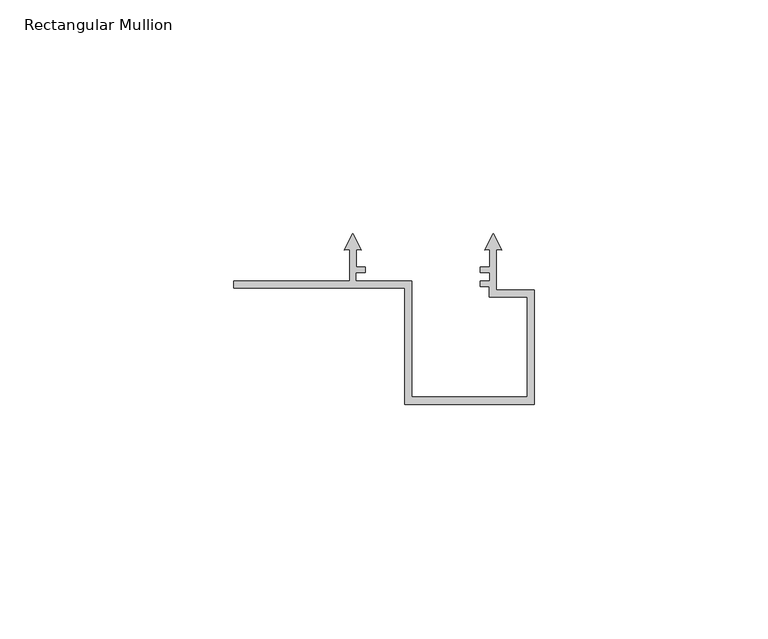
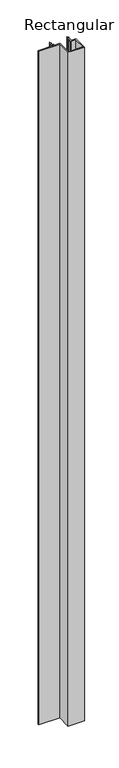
"""IFC4 building model written with IfcOpenShell, lengths in millimetres: member geometry, Rectangular Mullion : Renson_Linarte_LA-B25-01."""

from ifc_helpers import new_model, si_unit, frame, origin, place, context, project, spatial, polyline, outline, extrude, source, transform, mapped, element, save


def rectangular_mullion_c315bab6(model_context):
    return source(origin(), model_context, "Body", "SweptSolid", [
        extrude(outline(polyline([(36.6500002, -61.6), (36.6500002, -36.7004291), (0.0, -36.7004291), (0.0, -35.2056679), (24.8, -35.2056679), (24.8, -28.5038207), (23.6842647, -28.6014348), (25.5000014, -25.0378474), (27.315738, -28.6014348), (26.2000002, -28.5038204), (26.2000002, -32.1999997), (28.1922643, -32.1999997), (28.1922643, -33.4008281), (26.1000012, -33.4008281), (26.1000012, -35.1999997), (38.1500002, -35.1999997), (38.1500002, -60.0999997), (62.8500002, -60.0999997), (62.8500002, -38.5997951), (54.6997126, -38.5997951), (54.6997126, -36.4015214), (52.8211027, -36.4015214), (52.8211027, -35.1999954), (54.8, -35.1999954), (54.8, -33.4004386), (52.8216175, -33.4004386), (52.8216175, -32.198351), (54.8091807, -32.198351), (54.8091807, -28.5038206), (53.6934442, -28.6014348), (55.5091808, -25.0378474), (57.3249174, -28.6014348), (56.2091809, -28.5038205), (56.2091809, -37.0995654), (64.3500002, -37.0995654), (64.3500002, -61.6), (36.6500002, -61.6)])), frame((0.0, 0.0, -1225.5020157), z_axis=(0.0, 0.0, 1.0), x_axis=(1.0, 0.0, 0.0)), (0.0, 0.0, 1.0), 1225.5020157),
    ])


if __name__ == "__main__":
    model = new_model("IFC4")
    model_context = context("Model", 3, world=origin())
    ifc_project = project(units=[si_unit("LENGTHUNIT", "METRE", prefix="MILLI")], contexts=[model_context])
    site = spatial("IfcSite", under=ifc_project)
    building = spatial("IfcBuilding", under=site)
    placement = place(None, origin())
    rectangular_mullion_shape = rectangular_mullion_c315bab6(model_context)
    element("IfcMember", 1, ObjectType="Rectangular Mullion : Renson_Linarte_LA-B25-01", at=placement, inside=building, context=model_context, shape_type="MappedRepresentation", body=[
        mapped(rectangular_mullion_shape, transform((0.0, 0.0, 0.0), x_axis=(1.0, 0.0, 0.0), y_axis=(0.0, 1.0, 0.0), z_axis=(0.0, 0.0, 1.0))),
    ])
    save(model, "model.ifc")
